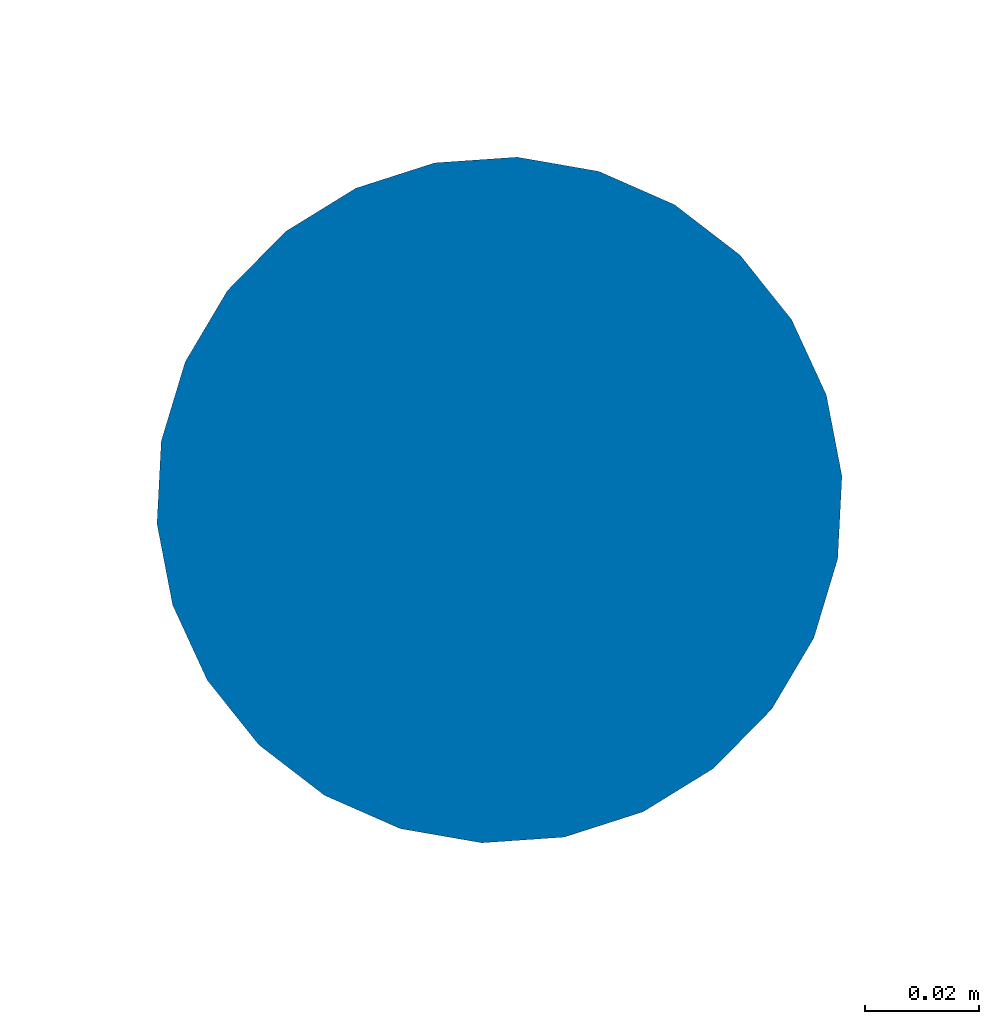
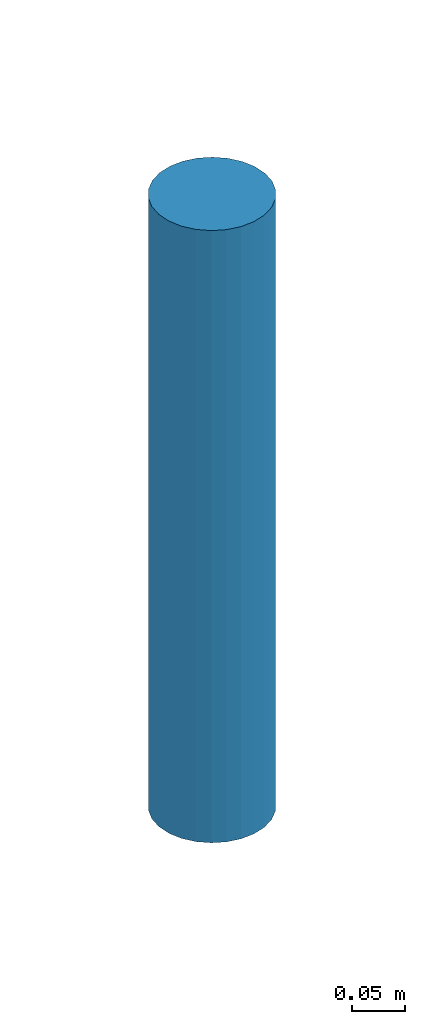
# One storey, part 3 of 157: 1 column.
"""IFC2X3 building model written with IfcOpenShell, lengths in millimetres."""

from ifc_helpers import new_model, entity, si_unit, converted_unit, derived_unit, direction, frame, frame_2d, origin, place, context, subcontext, project, spatial, circle, extrude, source, transform, mapped, material, type_object, type_shapes, element, save


model = new_model("IFC2X3")

# Units and contexts
model_context = context("Model", 3, precision=0.01, world=origin(), true_north=direction((6.123031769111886e-17, 1.0)))
body_context = subcontext(model_context, "Body", "Model", "MODEL_VIEW")
ifc_project = project(units=[si_unit("LENGTHUNIT", "METRE", prefix="MILLI"), si_unit("AREAUNIT", "SQUARE_METRE"), si_unit("VOLUMEUNIT", "CUBIC_METRE"), converted_unit("PLANEANGLEUNIT", "DEGREE", entity("IfcRatioMeasure", 0.017453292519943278), si_unit("PLANEANGLEUNIT", "RADIAN"), dimensions=[0, 0, 0, 0, 0, 0, 0]), si_unit("MASSUNIT", "GRAM", prefix="KILO"), derived_unit("MASSDENSITYUNIT", [(si_unit("MASSUNIT", "GRAM", prefix="KILO"), 1), (si_unit("LENGTHUNIT", "METRE"), -3)]), derived_unit("MOMENTOFINERTIAUNIT", [(si_unit("LENGTHUNIT", "METRE"), 4)]), si_unit("TIMEUNIT", "SECOND"), si_unit("FREQUENCYUNIT", "HERTZ"), si_unit("THERMODYNAMICTEMPERATUREUNIT", "DEGREE_CELSIUS"), derived_unit("THERMALTRANSMITTANCEUNIT", [(si_unit("MASSUNIT", "GRAM", prefix="KILO"), 1), (si_unit("THERMODYNAMICTEMPERATUREUNIT", "KELVIN"), -1), (si_unit("TIMEUNIT", "SECOND"), -3)]), derived_unit("THERMALCONDUCTANCEUNIT", [(si_unit("MASSUNIT", "GRAM", prefix="KILO"), 1), (si_unit("LENGTHUNIT", "METRE"), 1), (si_unit("THERMODYNAMICTEMPERATUREUNIT", "KELVIN"), -1), (si_unit("TIMEUNIT", "SECOND"), -3)]), derived_unit("VOLUMETRICFLOWRATEUNIT", [(si_unit("LENGTHUNIT", "METRE"), 3), (si_unit("TIMEUNIT", "SECOND"), -1)]), derived_unit("MASSFLOWRATEUNIT", [(si_unit("MASSUNIT", "GRAM", prefix="KILO"), 1), (si_unit("TIMEUNIT", "SECOND"), -1)]), derived_unit("ROTATIONALFREQUENCYUNIT", [(si_unit("TIMEUNIT", "SECOND"), -1)]), si_unit("ELECTRICCURRENTUNIT", "AMPERE"), si_unit("ELECTRICVOLTAGEUNIT", "VOLT"), si_unit("POWERUNIT", "WATT"), converted_unit("FORCEUNIT", "KIP", entity("IfcRatioMeasure", 2.088543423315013e-05), si_unit("FORCEUNIT", "NEWTON"), dimensions=[1, 1, -2, 0, 0, 0, 0]), si_unit("ILLUMINANCEUNIT", "LUX"), si_unit("LUMINOUSFLUXUNIT", "LUMEN"), si_unit("LUMINOUSINTENSITYUNIT", "CANDELA"), derived_unit("USERDEFINED", [(si_unit("MASSUNIT", "GRAM", prefix="KILO"), -1), (si_unit("LENGTHUNIT", "METRE"), -2), (si_unit("TIMEUNIT", "SECOND"), 3), (si_unit("LUMINOUSFLUXUNIT", "LUMEN"), 1)]), derived_unit("USERDEFINED", [(si_unit("MASSUNIT", "GRAM", prefix="KILO"), 1), (si_unit("LENGTHUNIT", "METRE"), 3), (si_unit("TIMEUNIT", "SECOND"), -3), (si_unit("ELECTRICCURRENTUNIT", "AMPERE"), -2)]), derived_unit("USERDEFINED", [(si_unit("LENGTHUNIT", "METRE"), 2), (si_unit("TIMEUNIT", "SECOND"), -2)]), derived_unit("SOUNDPOWERUNIT", [(si_unit("MASSUNIT", "GRAM", prefix="KILO"), 1), (si_unit("LENGTHUNIT", "METRE"), 2), (si_unit("TIMEUNIT", "SECOND"), -3)]), derived_unit("SOUNDPRESSUREUNIT", [(si_unit("MASSUNIT", "GRAM", prefix="KILO"), 1), (si_unit("LENGTHUNIT", "METRE"), -1), (si_unit("TIMEUNIT", "SECOND"), -2)]), derived_unit("LINEARVELOCITYUNIT", [(si_unit("LENGTHUNIT", "METRE"), 1), (si_unit("TIMEUNIT", "SECOND"), -1)]), si_unit("PRESSUREUNIT", "PASCAL"), derived_unit("USERDEFINED", [(si_unit("LENGTHUNIT", "METRE"), -2), (si_unit("MASSUNIT", "GRAM", prefix="KILO"), 1), (si_unit("TIMEUNIT", "SECOND"), -2)]), derived_unit("LINEARFORCEUNIT", [(si_unit("MASSUNIT", "GRAM", prefix="KILO"), 1), (si_unit("LENGTHUNIT", "METRE"), 1), (si_unit("TIMEUNIT", "SECOND"), -2), (si_unit("LENGTHUNIT", "METRE"), -1)]), derived_unit("PLANARFORCEUNIT", [(si_unit("MASSUNIT", "GRAM", prefix="KILO"), 1), (si_unit("LENGTHUNIT", "METRE"), 1), (si_unit("TIMEUNIT", "SECOND"), -2), (si_unit("LENGTHUNIT", "METRE"), -2)]), derived_unit("SPECIFICHEATCAPACITYUNIT", [(si_unit("LENGTHUNIT", "METRE"), 2), (si_unit("TIMEUNIT", "SECOND"), -2), (si_unit("THERMODYNAMICTEMPERATUREUNIT", "KELVIN"), -1)]), derived_unit("VAPORPERMEABILITYUNIT", [(si_unit("TIMEUNIT", "SECOND"), 1), (si_unit("LENGTHUNIT", "METRE"), -1)]), derived_unit("DYNAMICVISCOSITYUNIT", [(si_unit("MASSUNIT", "GRAM", prefix="KILO"), 1), (si_unit("LENGTHUNIT", "METRE"), -1), (si_unit("TIMEUNIT", "SECOND"), -1)]), derived_unit("THERMALEXPANSIONCOEFFICIENTUNIT", [(si_unit("THERMODYNAMICTEMPERATUREUNIT", "KELVIN"), -1)])], contexts=[model_context])

# Site, building, storey
site_placement = place(None, frame((0.0, 0.0, 0.0), z_axis=(0.0, 0.0, 1.0), x_axis=(0.8191520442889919, 0.5735764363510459, 0.0)))
site = spatial("IfcSite", under=ifc_project, at=site_placement, Name="Default", CompositionType="ELEMENT")
building_placement = place(site_placement, origin())
building = spatial("IfcBuilding", under=site, at=building_placement, CompositionType="ELEMENT")
storey_placement = place(building_placement, origin())
storey = spatial("IfcBuildingStorey", under=building, at=storey_placement, Name="1.EG +0.00", CompositionType="ELEMENT", Elevation=-4.331468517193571e-12)

# Column
ifc_material = material(Name="_parapet_dark")
column_type = type_object("IfcColumnType", Name="Col-045 246663:Col-045 246663", PredefinedType="COLUMN", material=ifc_material)
shared_shape = source(origin(), body_context, "Body", "SweptSolid", [
    extrude(circle(Radius=59.999999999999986, at=frame_2d((-3.590547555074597e-28, 1.0610491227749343e-13), x_axis=(1.0, 0.0))), frame((0.0, 0.0, 0.0), z_axis=(0.0, 0.0, 1.0), x_axis=(-1.0, 0.0, 0.0)), (0.0, 0.0, 1.0), 700.0),
])
type_shapes(column_type, [shared_shape])
column_placement = place(storey_placement, frame((-158345.2691567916, -128257.1323551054, 850.0), z_axis=(0.0, 0.0, 1.0), x_axis=(-0.9983054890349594, 0.05819063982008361, 0.0)))
element("IfcColumn", 1, at=column_placement, inside=storey, type_object=column_type, material=ifc_material, Name="Col-045", ObjectType="Col-045 246663:Col-045 246663", context=body_context, shape_type="MappedRepresentation", body=[
    mapped(shared_shape, transform((0.0, 0.0, 0.0), scale=1.0)),
])

save(model, "model.ifc")
